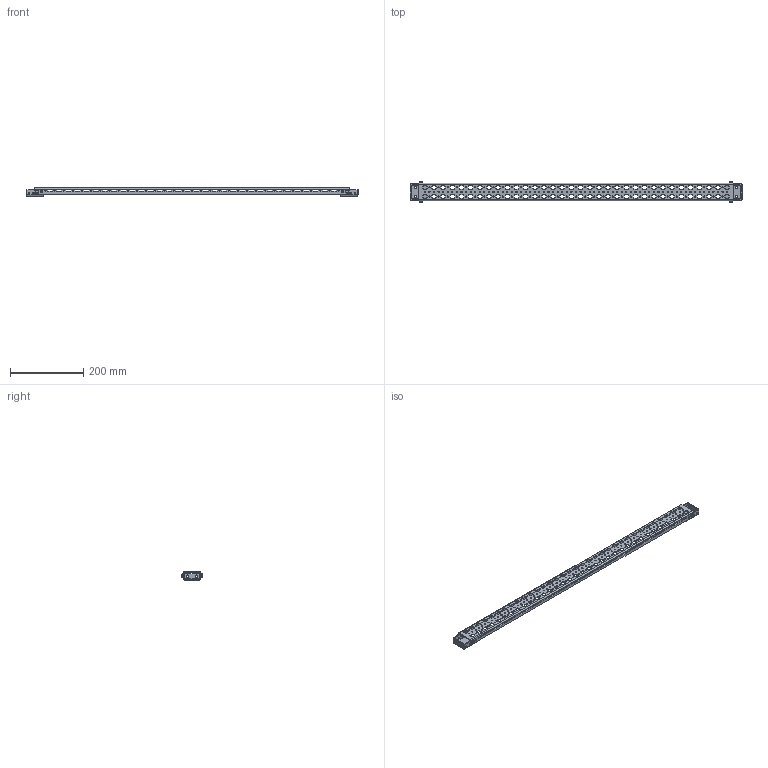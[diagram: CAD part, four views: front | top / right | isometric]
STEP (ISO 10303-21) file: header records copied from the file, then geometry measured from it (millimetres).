
FILE_DESCRIPTION (( 'STEP AP203' ), '1' );
FILE_NAME ('MRD 100.06 L Ðåéêà ìîíòàæíàÿ (äåðæàòåëè âûäâèíóòû).STEP', '2025-05-15T12:15:25', ( '' ), ( '' ), 'SwSTEP 2.0', 'SolidWorks 2019', '' );
FILE_SCHEMA (( 'CONFIG_CONTROL_DESIGN' ));
Length unit declared in the file: millimetre
Products named in the file (4): MRD 100.06 L Ðåéêà ìîíòàæíàÿ (äåðæàòåëè âûäâèíóòû); MRD X.06.002 L Êðîíøòåéí ðåéêè; 妈眚 襦祛磬疱玎栝_4,8x11; MRD X.06.001 L Ðåéêà ìîíòàæíàÿ_MRD 100.06.001 L
Assembly tree (7 placements, depth 2):
  MRD 100.06 L Ðåéêà ìîíòàæíàÿ (äåðæàòåëè âûäâèíóòû)
    MRD X.06.001 L Ðåéêà ìîíòàæíàÿ_MRD 100.06.001 L
    MRD X.06.002 L Êðîíøòåéí ðåéêè  x2
    妈眚 襦祛磬疱玎栝_4,8x11  x4
Bounding box: 906 x 58 x 23 mm (x, y, z)
Volume: 124631.6 mm3; surface area: 144344.9 mm2
Topology: 7 solids, 7 shells, 2876 faces, 8502 edges, 5640 vertices
Faces by surface type: cylinder 1630, plane 1202, bspline 24, cone 20
Entity records: 94486 total; most frequent: CARTESIAN_POINT 17210, DIRECTION 16449, ORIENTED_EDGE 16064, EDGE_CURVE 8032, AXIS2_PLACEMENT_3D 5774, VERTEX_POINT 5341, VECTOR 4901, LINE 4901
